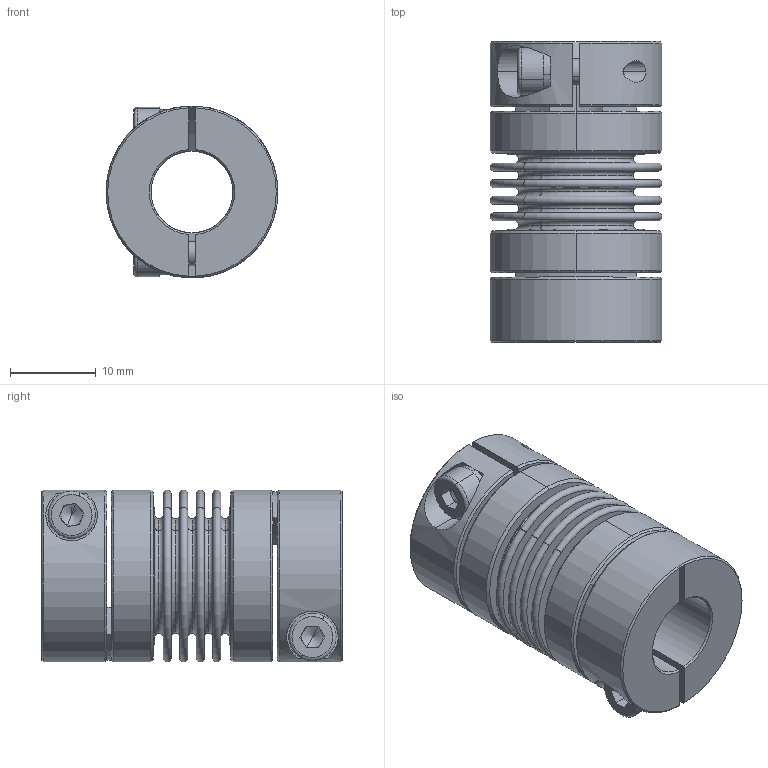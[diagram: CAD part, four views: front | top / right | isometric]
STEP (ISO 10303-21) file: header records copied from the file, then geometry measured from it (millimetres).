
FILE_DESCRIPTION (( 'STEP AP203' ), '1' );
FILE_NAME ('LB-B-D20L34-9.525-9.525.STEP', '2021-11-04T01:46:52', ( '' ), ( '' ), 'SwSTEP 2.0', 'SolidWorks 2018', '' );
FILE_SCHEMA (( 'CONFIG_CONTROL_DESIGN' ));
Length unit declared in the file: millimetre
Products named in the file (2): 零件4^LB-B-D20L34 波纹管联轴器-组装体; LB-B-D20L34-9.525-9.525
Assembly tree (1 placements, depth 2):
  LB-B-D20L34-9.525-9.525
    零件4^LB-B-D20L34 波纹管联轴器-组装体
Bounding box: 20 x 35 x 20 mm (x, y, z)
Volume: 5264.2 mm3; surface area: 9393.4 mm2
Topology: 1 solids, 1 shells, 246 faces, 566 edges, 350 vertices
Faces by surface type: plane 84, torus 68, cylinder 60, cone 34
Entity records: 7446 total; most frequent: CARTESIAN_POINT 1462, DIRECTION 1370, ORIENTED_EDGE 1124, AXIS2_PLACEMENT_3D 602, EDGE_CURVE 562, CIRCLE 352, VERTEX_POINT 350, EDGE_LOOP 288
